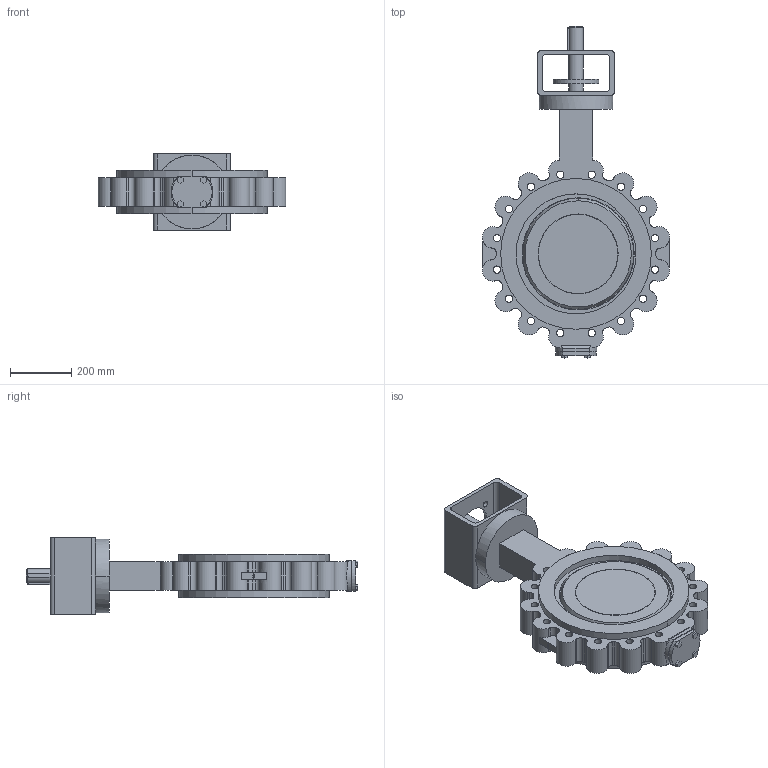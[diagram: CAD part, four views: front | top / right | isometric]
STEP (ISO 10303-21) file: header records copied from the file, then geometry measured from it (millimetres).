
FILE_DESCRIPTION( ( '' ), '1' );
FILE_NAME( 'F:/DE-SHS/TB/OR/04-Sonstiges/daten/files_3d/018_ZETRIX-PN10_freiesWellende/c000006364.stp', '2016-09-01T11:04:38', ( '' ), ( '' ), ' ', ' ', ' ' );
FILE_SCHEMA( ( 'CONFIG_CONTROL_DESIGN' ) );
Length unit declared in the file: millimetre
Products named in the file (1): 1
Bounding box: 609.3 x 1079.7 x 248 mm (x, y, z)
Volume: 29348616.1 mm3; surface area: 1733961.1 mm2
Topology: 1 solids, 1 shells, 308 faces, 856 edges, 570 vertices
Faces by surface type: cylinder 197, plane 103, sphere 4, cone 4
Entity records: 11068 total; most frequent: CARTESIAN_POINT 2661, DIRECTION 1862, ORIENTED_EDGE 1712, EDGE_CURVE 856, AXIS2_PLACEMENT_3D 731, VERTEX_POINT 570, CIRCLE 418, LINE 400
